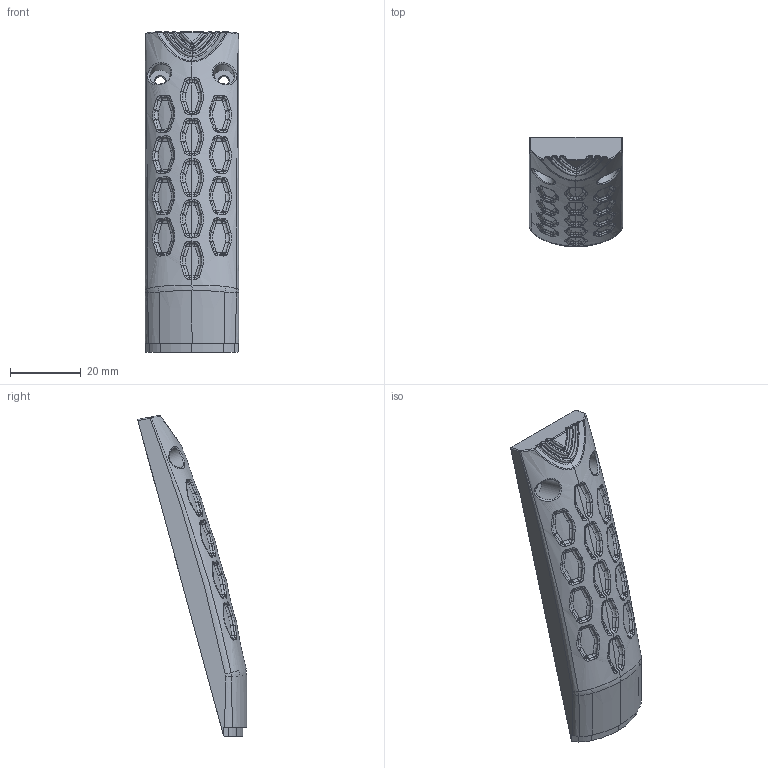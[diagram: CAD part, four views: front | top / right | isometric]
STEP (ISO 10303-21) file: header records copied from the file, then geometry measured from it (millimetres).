
FILE_DESCRIPTION(/* description */ (''),/* implementation_level */ '2;1');
FILE_NAME(/* name */ 'LAST_Grip 03.stp',/* time_stamp */ '2025-11-19T21:09:40+09:00',/* author */ (''),/* organization */ (''),/* preprocessor_version */ 'ST-DEVELOPER v11',/* originating_system */ 'SIEMENS PLM Software NX 7.5',/* authorisation */ '');
FILE_SCHEMA (('CONFIG_CONTROL_DESIGN'));
Length unit declared in the file: millimetre
Products named in the file (1): gyun8741ynv9
Bounding box: 26.4 x 30.82 x 90.71 mm (x, y, z)
Volume: 6507.7 mm3; surface area: 8057.9 mm2
Topology: 1 solids, 1 shells, 599 faces, 1421 edges, 833 vertices
Faces by surface type: bspline 516, cylinder 40, plane 35, extrusion 6, sphere 1, torus 1
Full cylindrical faces by diameter (mm): 3 x2, 6 x2
Entity records: 27232 total; most frequent: CARTESIAN_POINT 16990, ORIENTED_EDGE 2822, EDGE_CURVE 1411, DIRECTION 1111, B_SPLINE_CURVE_WITH_KNOTS 899, VERTEX_POINT 830, EDGE_LOOP 619, ADVANCED_FACE 599
